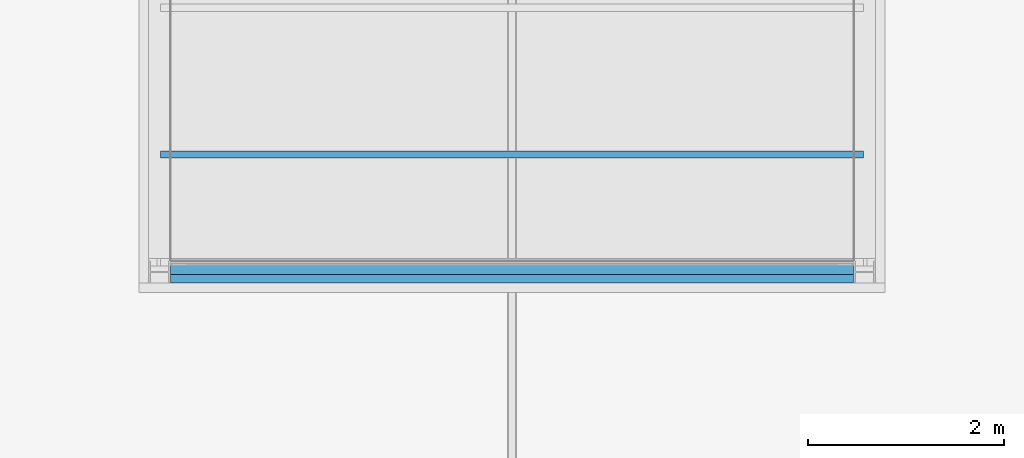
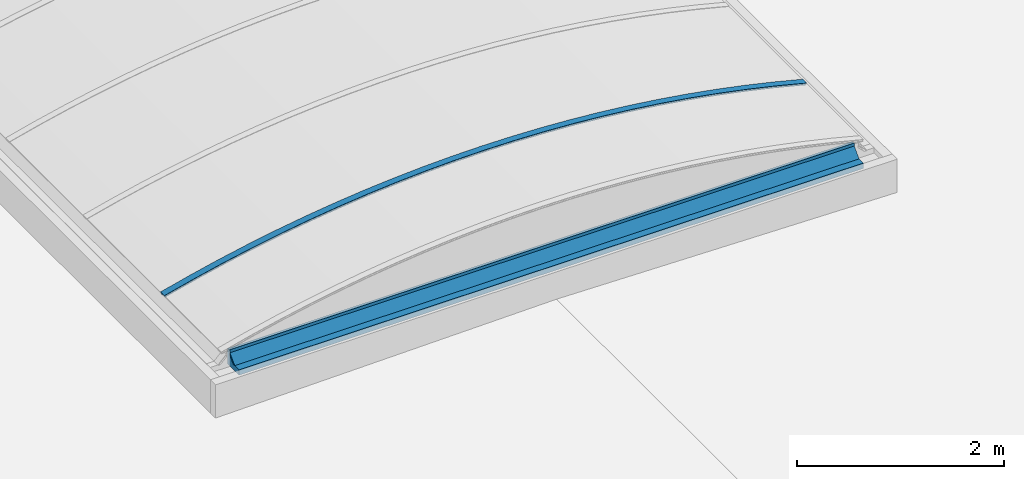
# One storey, part 52 of 81: 2 beams.
"""IFC2X3 building model written with IfcOpenShell, lengths in millimetres."""

from ifc_helpers import new_model, entity, si_unit, converted_unit, derived_unit, money_unit, direction, frame, origin_with_axes, place, context, subcontext, project, spatial, faceted_brep, material, material_list, type_object, element, save


model = new_model("IFC2X3")

# Units and contexts
model_context = context("Model", 3, precision=0.01, world=origin_with_axes(), true_north=direction((0.0, 1.0)))
body_context = subcontext(model_context, "Body", "Model", "MODEL_VIEW")
ifc_project = project(units=[si_unit("LENGTHUNIT", "METRE", prefix="MILLI"), si_unit("AREAUNIT", "SQUARE_METRE"), si_unit("VOLUMEUNIT", "CUBIC_METRE"), converted_unit("PLANEANGLEUNIT", "DEGREE", entity("IfcPlaneAngleMeasure", 0.0174532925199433), si_unit("PLANEANGLEUNIT", "RADIAN"), dimensions=[0, 0, 0, 0, 0, 0, 0]), money_unit("EUR"), converted_unit("TIMEUNIT", "Year", entity("IfcTimeMeasure", 31557600.0), si_unit("TIMEUNIT", "SECOND"), dimensions=[0, 0, 1, 0, 0, 0, 0]), si_unit("MASSUNIT", "GRAM", prefix="KILO"), si_unit("THERMODYNAMICTEMPERATUREUNIT", "DEGREE_CELSIUS"), si_unit("LUMINOUSINTENSITYUNIT", "LUMEN"), si_unit("ENERGYUNIT", "JOULE", prefix="MEGA"), derived_unit("THERMALCONDUCTANCEUNIT", [(si_unit("POWERUNIT", "WATT"), 1), (si_unit("LENGTHUNIT", "METRE"), -1), (si_unit("THERMODYNAMICTEMPERATUREUNIT", "KELVIN"), -1)]), derived_unit("SPECIFICHEATCAPACITYUNIT", [(si_unit("ENERGYUNIT", "JOULE"), 1), (si_unit("MASSUNIT", "GRAM", prefix="KILO"), -1), (si_unit("THERMODYNAMICTEMPERATUREUNIT", "KELVIN"), -1)]), derived_unit("MASSDENSITYUNIT", [(si_unit("MASSUNIT", "GRAM", prefix="KILO"), 1), (si_unit("VOLUMEUNIT", "CUBIC_METRE"), -1)])], contexts=[model_context])

# Site, building, storey
site_placement = place(None, origin_with_axes())
site = spatial("IfcSite", under=ifc_project, at=site_placement, Name="Site", CompositionType="ELEMENT")
building_placement = place(site_placement, origin_with_axes())
building = spatial("IfcBuilding", under=site, at=building_placement, Name="Naam gebouw", CompositionType="ELEMENT")
storey_placement = place(building_placement, frame((0.0, 0.0, 15320.0), z_axis=(0.0, 0.0, 1.0), x_axis=(1.0, 0.0, 0.0)))
storey = spatial("IfcBuildingStorey", under=building, at=storey_placement, Name="01 dak", CompositionType="ELEMENT", Elevation=15320.0)

# Beams
ifc_material_1 = material(Name="Metaal - Aluminium AFW")
ifc_material_list_1 = material_list([ifc_material_1, ifc_material_1])
beam_type_1 = type_object("IfcBeamType", Name="lichtstraat polycarbonaat (constructie) 7420 x 670", PredefinedType="BEAM")
beam_1_placement = place(storey_placement, frame((105300.0, 70362.50000000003, 559.9999999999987), z_axis=(0.0, 0.0, 1.0), x_axis=(1.0, 0.0, 0.0)))
element("IfcBeam", 1, at=beam_1_placement, inside=storey, type_object=beam_type_1, material=ifc_material_list_1, Name="Plafondafwerking 3", ObjectType="BEAM", context=body_context, shape_type="Brep", body=[
    faceted_brep([(-3532.999999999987, 75.00000000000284, 192.1385480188), (-3532.999999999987, 0.0, 192.1385480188), (-3582.999999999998, 0.0, 179.000000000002), (-3582.999999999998, 75.00000000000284, 179.000000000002), (-3527.999999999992, 75.00000000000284, 193.4415530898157), (-3527.999999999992, 0.0, 193.4415530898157), (-2943.44844329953, 0.0, 337.3385317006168), (-3264.746952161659, 0.0, 264.2761146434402), (-3584.237010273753, 0.0, 183.6724462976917), (-3213.32287812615, 0.0, 271.5053933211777), (-2896.922437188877, 0.0, 342.2614189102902), (-2578.96836412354, 0.0, 405.6716830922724), (-2259.631179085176, 0.0, 461.7021786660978), (-1939.082143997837, 0.0, 510.3228562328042), (-1617.493170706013, 0.0, 551.5076403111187), (-1295.036728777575, 0.0, 585.2344433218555), (-971.8857530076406, 0.0, 611.485177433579), (-648.2135506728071, 0.0, 630.2457642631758), (-324.1937085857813, 0.0, 641.5061424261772), (0.0, 0.0, 645.2602729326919), (324.1937085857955, 0.0, 641.5061424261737), (648.2135506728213, 0.0, 630.2457642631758), (971.8857530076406, 0.0, 611.4851774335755), (1295.036728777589, 0.0, 585.2344433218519), (1617.493170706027, 0.0, 551.5076403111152), (1939.082143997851, 0.0, 510.3228562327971), (2259.63117908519, 0.0, 461.7021786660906), (2578.96836412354, 0.0, 405.6716830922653), (2896.922437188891, 0.0, 342.2614189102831), (3213.322878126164, 0.0, 271.5053933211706), (3528.000000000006, 0.0, 193.4415530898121), (3528.000000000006, 0.0, 194.0000000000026), (3533.000000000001, 0.0, 194.0000000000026), (3533.000000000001, 0.0, 192.1385480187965), (3582.999999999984, 0.0, 179.000000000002), (3584.237010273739, 0.0, 183.6724462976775), (3264.746952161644, 0.0, 264.2761146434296), (2943.448443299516, 0.0, 337.3385317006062), (2620.51946150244, 0.0, 402.8192257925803), (2296.138887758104, 0.0, 460.6819250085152), (1970.486407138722, 0.0, 510.8945772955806), (1643.742409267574, 0.0, 553.4293682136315), (1316.087888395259, 0.0, 588.2627363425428), (987.7043431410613, 0.0, 615.3753863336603), (658.7736759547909, 0.0, 634.7522995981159), (329.4780923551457, 0.0, 646.3827426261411), (0.0, 0.0, 650.2602729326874), (-329.4780923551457, 0.0, 646.3827426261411), (-658.7736759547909, 0.0, 634.7522995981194), (-987.7043431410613, 0.0, 615.375386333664), (-1316.087888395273, 0.0, 588.2627363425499), (-1643.742409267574, 0.0, 553.4293682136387), (-1970.486407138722, 0.0, 510.8945772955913), (-2296.138887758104, 0.0, 460.6819250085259), (-2620.519461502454, 0.0, 402.8192257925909), (-3584.237010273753, 75.00000000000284, 183.6724462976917), (-3213.32287812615, 75.00000000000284, 271.5053933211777), (-3264.746952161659, 75.00000000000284, 264.2761146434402), (-2943.44844329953, 75.00000000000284, 337.3385317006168), (-2620.519461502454, 75.00000000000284, 402.8192257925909), (-2296.138887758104, 75.00000000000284, 460.6819250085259), (-1970.486407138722, 75.00000000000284, 510.8945772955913), (-1643.742409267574, 75.00000000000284, 553.4293682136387), (-1316.087888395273, 75.00000000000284, 588.2627363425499), (-987.7043431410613, 75.00000000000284, 615.375386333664), (-658.7736759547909, 75.00000000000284, 634.7522995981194), (-329.4780923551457, 75.00000000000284, 646.3827426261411), (0.0, 75.00000000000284, 650.2602729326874), (329.4780923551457, 75.00000000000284, 646.3827426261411), (658.7736759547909, 75.00000000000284, 634.7522995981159), (987.7043431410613, 75.00000000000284, 615.3753863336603), (1316.087888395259, 75.00000000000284, 588.2627363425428), (1643.742409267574, 75.00000000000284, 553.4293682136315), (1970.486407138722, 75.00000000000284, 510.8945772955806), (2296.138887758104, 75.00000000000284, 460.6819250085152), (2620.51946150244, 75.00000000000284, 402.8192257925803), (2943.448443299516, 75.00000000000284, 337.3385317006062), (3264.746952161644, 75.00000000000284, 264.2761146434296), (3584.237010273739, 75.00000000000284, 183.6724462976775), (3582.999999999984, 75.00000000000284, 179.000000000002), (3533.000000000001, 75.00000000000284, 192.1385480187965), (3533.000000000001, 75.00000000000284, 194.0000000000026), (3528.000000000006, 75.00000000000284, 194.0000000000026), (3528.000000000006, 75.00000000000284, 193.4415530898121), (3213.322878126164, 75.00000000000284, 271.5053933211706), (2896.922437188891, 75.00000000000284, 342.2614189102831), (2578.96836412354, 75.00000000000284, 405.6716830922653), (2259.63117908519, 75.00000000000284, 461.7021786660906), (1939.082143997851, 75.00000000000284, 510.3228562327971), (1617.493170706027, 75.00000000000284, 551.5076403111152), (1295.036728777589, 75.00000000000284, 585.2344433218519), (971.8857530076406, 75.00000000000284, 611.4851774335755), (648.2135506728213, 75.00000000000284, 630.2457642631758), (324.1937085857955, 75.00000000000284, 641.5061424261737), (0.0, 75.00000000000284, 645.2602729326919), (-324.1937085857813, 75.00000000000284, 641.5061424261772), (-648.2135506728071, 75.00000000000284, 630.2457642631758), (-971.8857530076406, 75.00000000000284, 611.485177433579), (-1295.036728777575, 75.00000000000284, 585.2344433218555), (-1617.493170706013, 75.00000000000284, 551.5076403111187), (-1939.082143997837, 75.00000000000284, 510.3228562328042), (-2259.631179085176, 75.00000000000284, 461.7021786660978), (-2578.96836412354, 75.00000000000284, 405.6716830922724), (-2896.922437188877, 75.00000000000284, 342.2614189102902)], [[[0, 1, 2, 3]], [[4, 5, 1, 0]], [[6, 7, 8, 2, 1, 5, 9, 10, 11, 12, 13, 14, 15, 16, 17, 18, 19, 20, 21, 22, 23, 24, 25, 26, 27, 28, 29, 30, 31, 32, 33, 34, 35, 36, 37, 38, 39, 40, 41, 42, 43, 44, 45, 46, 47, 48, 49, 50, 51, 52, 53, 54]], [[3, 2, 8, 55]], [[56, 4, 0, 3, 55, 57, 58, 59, 60, 61, 62, 63, 64, 65, 66, 67, 68, 69, 70, 71, 72, 73, 74, 75, 76, 77, 78, 79, 80, 81, 82, 83, 84, 85, 86, 87, 88, 89, 90, 91, 92, 93, 94, 95, 96, 97, 98, 99, 100, 101, 102, 103]], [[56, 9, 5, 4]], [[57, 7, 6, 58]], [[55, 8, 7, 57]], [[103, 10, 9, 56]], [[102, 11, 10, 103]], [[101, 12, 11, 102]], [[100, 13, 12, 101]], [[99, 14, 13, 100]], [[98, 15, 14, 99]], [[97, 16, 15, 98]], [[96, 17, 16, 97]], [[95, 18, 17, 96]], [[94, 19, 18, 95]], [[93, 20, 19, 94]], [[92, 21, 20, 93]], [[91, 22, 21, 92]], [[90, 23, 22, 91]], [[89, 24, 23, 90]], [[88, 25, 24, 89]], [[87, 26, 25, 88]], [[86, 27, 26, 87]], [[85, 28, 27, 86]], [[84, 29, 28, 85]], [[83, 30, 29, 84]], [[82, 31, 30, 83]], [[81, 32, 31, 82]], [[80, 33, 32, 81]], [[79, 34, 33, 80]], [[78, 35, 34, 79]], [[77, 36, 35, 78]], [[76, 37, 36, 77]], [[75, 38, 37, 76]], [[74, 39, 38, 75]], [[73, 40, 39, 74]], [[72, 41, 40, 73]], [[71, 42, 41, 72]], [[70, 43, 42, 71]], [[69, 44, 43, 70]], [[68, 45, 44, 69]], [[67, 46, 45, 68]], [[66, 47, 46, 67]], [[65, 48, 47, 66]], [[64, 49, 48, 65]], [[63, 50, 49, 64]], [[62, 51, 50, 63]], [[61, 52, 51, 62]], [[60, 53, 52, 61]], [[59, 54, 53, 60]], [[58, 6, 54, 59]]]),
    faceted_brep([(3269.271727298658, 75.00000000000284, 283.190243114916), (2947.542627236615, 75.00000000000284, 356.4574241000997), (2947.542627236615, 0.0, 356.4574241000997), (3269.271727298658, 0.0, 283.190243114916), (3589.184752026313, 75.00000000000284, 202.3611008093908), (3587.947861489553, 75.00000000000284, 197.6891067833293), (3528.000000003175, 75.00000000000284, 213.4415530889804), (3213.322878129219, 75.00000000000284, 291.505393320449), (2896.922437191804, 75.00000000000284, 362.2614189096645), (2578.968364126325, 75.00000000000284, 425.6716830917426), (2259.631179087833, 75.00000000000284, 481.7021786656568), (1939.082144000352, 75.00000000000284, 530.3228562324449), (1617.493170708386, 75.00000000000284, 571.5076403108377), (1295.036728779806, 75.00000000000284, 605.2344433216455), (971.8857530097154, 75.00000000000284, 631.4851774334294), (648.2135506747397, 75.00000000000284, 650.2457642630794), (324.1937085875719, 75.00000000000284, 661.5061424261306), (1.63424829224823e-09, 75.00000000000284, 665.2602729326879), (-324.1937085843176, 75.00000000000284, 661.5061424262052), (-648.2135506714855, 75.00000000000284, 650.2457642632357), (-971.8857530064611, 75.00000000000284, 631.4851774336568), (-1295.036728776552, 75.00000000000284, 605.2344433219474), (-1617.493170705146, 75.00000000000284, 571.5076403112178), (-1939.082143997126, 75.00000000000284, 530.3228562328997), (-2259.631179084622, 75.00000000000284, 481.7021786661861), (-2578.968364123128, 75.00000000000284, 425.6716830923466), (-2896.922437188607, 75.00000000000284, 362.2614189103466), (-3213.322878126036, 75.00000000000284, 291.5053933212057), (-3528.00000000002, 75.00000000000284, 213.4415530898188), (-3533.000000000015, 75.00000000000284, 212.1385480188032), (-3587.947861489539, 75.00000000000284, 197.6891067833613), (-3589.184752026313, 75.00000000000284, 202.3611008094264), (-3269.271727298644, 75.00000000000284, 283.1902431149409), (-2947.542627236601, 75.00000000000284, 356.4574241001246), (-2624.176171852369, 75.00000000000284, 422.1219439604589), (-2299.351990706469, 75.00000000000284, 480.1473261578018), (-1973.250523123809, 75.00000000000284, 530.5013376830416), (-1646.052917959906, 75.00000000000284, 573.156006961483), (-1317.940932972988, 75.00000000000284, 608.0876393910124), (-989.0968338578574, 75.00000000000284, 635.2768305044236), (-659.7032929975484, 75.00000000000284, 654.7084767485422), (-329.9432879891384, 75.00000000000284, 666.3717838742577), (0.0, 75.00000000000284, 670.2602729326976), (329.9432879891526, 75.00000000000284, 666.3717838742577), (659.7032929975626, 75.00000000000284, 654.7084767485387), (989.0968338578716, 75.00000000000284, 635.2768305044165), (1317.940932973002, 75.00000000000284, 608.0876393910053), (1646.052917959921, 75.00000000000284, 573.1560069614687), (1973.250523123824, 75.00000000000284, 530.5013376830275), (2299.351990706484, 75.00000000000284, 480.147326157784), (2624.176171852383, 75.00000000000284, 422.1219439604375), (2624.176171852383, 0.0, 422.1219439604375), (2299.351990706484, 0.0, 480.147326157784), (1973.250523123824, 0.0, 530.5013376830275), (1646.052917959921, 0.0, 573.1560069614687), (1317.940932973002, 0.0, 608.0876393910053), (989.0968338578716, 0.0, 635.2768305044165), (659.7032929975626, 0.0, 654.7084767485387), (329.9432879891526, 0.0, 666.3717838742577), (0.0, 0.0, 670.2602729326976), (-329.9432879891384, 0.0, 666.3717838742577), (-659.7032929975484, 0.0, 654.7084767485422), (-989.0968338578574, 0.0, 635.2768305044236), (-1317.940932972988, 0.0, 608.0876393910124), (-1646.052917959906, 0.0, 573.156006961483), (-1973.250523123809, 0.0, 530.5013376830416), (-2299.351990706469, 0.0, 480.1473261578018), (-2624.176171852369, 0.0, 422.1219439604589), (-2947.542627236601, 0.0, 356.4574241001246), (-3269.271727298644, 0.0, 283.1902431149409), (-3589.184752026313, 0.0, 202.3611008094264), (-3587.947861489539, 0.0, 197.6891067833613), (-3533.000000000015, 0.0, 212.1385480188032), (-3528.00000000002, 0.0, 213.4415530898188), (-3213.322878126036, 0.0, 291.5053933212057), (-2896.922437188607, 0.0, 362.2614189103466), (-2578.968364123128, 0.0, 425.6716830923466), (-2259.631179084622, 0.0, 481.7021786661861), (-1939.082143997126, 0.0, 530.3228562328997), (-1617.493170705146, 0.0, 571.5076403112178), (-1295.036728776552, 0.0, 605.2344433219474), (-971.8857530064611, 0.0, 631.4851774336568), (-648.2135506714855, 0.0, 650.2457642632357), (-324.1937085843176, 0.0, 661.5061424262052), (1.63424829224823e-09, 0.0, 665.2602729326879), (324.1937085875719, 0.0, 661.5061424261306), (648.2135506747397, 0.0, 650.2457642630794), (971.8857530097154, 0.0, 631.4851774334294), (1295.036728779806, 0.0, 605.2344433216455), (1617.493170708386, 0.0, 571.5076403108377), (1939.082144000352, 0.0, 530.3228562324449), (2259.631179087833, 0.0, 481.7021786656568), (2578.968364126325, 0.0, 425.6716830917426), (2896.922437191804, 0.0, 362.2614189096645), (3213.322878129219, 0.0, 291.505393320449), (3528.000000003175, 0.0, 213.4415530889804), (3587.947861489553, 0.0, 197.6891067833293), (3589.184752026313, 0.0, 202.3611008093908)], [[[0, 1, 2, 3]], [[0, 4, 5, 6, 7, 8, 9, 10, 11, 12, 13, 14, 15, 16, 17, 18, 19, 20, 21, 22, 23, 24, 25, 26, 27, 28, 29, 30, 31, 32, 33, 34, 35, 36, 37, 38, 39, 40, 41, 42, 43, 44, 45, 46, 47, 48, 49, 50, 1]], [[1, 50, 51, 2]], [[3, 2, 51, 52, 53, 54, 55, 56, 57, 58, 59, 60, 61, 62, 63, 64, 65, 66, 67, 68, 69, 70, 71, 72, 73, 74, 75, 76, 77, 78, 79, 80, 81, 82, 83, 84, 85, 86, 87, 88, 89, 90, 91, 92, 93, 94, 95, 96, 97]], [[4, 0, 3, 97]], [[5, 4, 97, 96]], [[6, 5, 96, 95]], [[7, 6, 95, 94]], [[8, 7, 94, 93]], [[9, 8, 93, 92]], [[10, 9, 92, 91]], [[11, 10, 91, 90]], [[12, 11, 90, 89]], [[13, 12, 89, 88]], [[14, 13, 88, 87]], [[15, 14, 87, 86]], [[16, 15, 86, 85]], [[17, 16, 85, 84]], [[18, 17, 84, 83]], [[19, 18, 83, 82]], [[20, 19, 82, 81]], [[21, 20, 81, 80]], [[22, 21, 80, 79]], [[23, 22, 79, 78]], [[24, 23, 78, 77]], [[25, 24, 77, 76]], [[26, 25, 76, 75]], [[27, 26, 75, 74]], [[28, 27, 74, 73]], [[29, 28, 73, 72]], [[30, 29, 72, 71]], [[31, 30, 71, 70]], [[32, 31, 70, 69]], [[33, 32, 69, 68]], [[34, 33, 68, 67]], [[35, 34, 67, 66]], [[36, 35, 66, 65]], [[37, 36, 65, 64]], [[38, 37, 64, 63]], [[39, 38, 63, 62]], [[40, 39, 62, 61]], [[41, 40, 61, 60]], [[42, 41, 60, 59]], [[43, 42, 59, 58]], [[44, 43, 58, 57]], [[45, 44, 57, 56]], [[46, 45, 56, 55]], [[47, 46, 55, 54]], [[48, 47, 54, 53]], [[49, 48, 53, 52]], [[50, 49, 52, 51]]]),
])
ifc_material_2 = material(Name="Hout - Dak")
ifc_material_list_2 = material_list([ifc_material_1, ifc_material_1, ifc_material_1, ifc_material_2, ifc_material_2, ifc_material_2])
beam_type_2 = type_object("IfcBeamType", Name="lichtstraat polycarbonaat (constructie-kopzijde) 220 x 193", PredefinedType="BEAM")
beam_2_placement = place(storey_placement, frame((101810.0, 69310.0, 560.0000000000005), z_axis=(0.0, 0.0, 1.0), x_axis=(0.0, -1.0, 0.0)))
element("IfcBeam", 2, at=beam_2_placement, inside=storey, type_object=beam_type_2, material=ifc_material_list_2, Name="Plafondafwerking 3", ObjectType="BEAM", context=body_context, shape_type="Brep", body=[
    faceted_brep([(137.2248164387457, 6979.999999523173, 62.99999939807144), (135.1537490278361, 6979.999999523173, 58.00000032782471), (135.1537490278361, 0.0, 58.00000032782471), (137.2248164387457, 0.0, 62.99999939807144), (219.9999999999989, 6979.999999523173, 62.99999939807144), (219.9999999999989, 6979.999999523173, 58.00000032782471), (219.9999999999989, 0.0, 58.00000032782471), (219.9999999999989, 0.0, 62.99999939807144)], [[[0, 1, 2, 3]], [[0, 4, 5, 1]], [[1, 5, 6, 2]], [[3, 2, 6, 7]], [[4, 0, 3, 7]], [[5, 4, 7, 6]]]),
    faceted_brep([(42.99999999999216, 0.0, 192.1385480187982), (42.99999999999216, 6979.999999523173, 192.1385480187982), (37.9999999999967, 6979.999999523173, 193.4415530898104), (37.9999999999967, 0.0, 193.4415530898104), (42.99999999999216, 0.0, 157.2248175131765), (42.99999999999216, 6979.999999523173, 157.2248175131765), (37.9999999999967, 6979.999999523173, 155.1537497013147), (37.9999996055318, 6979.999999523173, 184.0000003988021), (37.9999996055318, 0.0, 184.0000003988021), (37.9999999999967, 0.0, 155.1537497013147)], [[[0, 1, 2, 3]], [[4, 5, 1, 0]], [[2, 1, 5, 6, 7]], [[3, 2, 7, 8]], [[4, 0, 3, 8, 9]], [[9, 6, 5, 4]], [[8, 7, 6, 9]]]),
    faceted_brep([(37.99999912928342, 0.0, 155.153748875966), (37.99999912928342, 6979.999999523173, 155.153748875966), (135.1537502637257, 6979.999999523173, 58.00000048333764), (135.1537502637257, 0.0, 58.00000048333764), (42.99999997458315, 0.0, 157.2248181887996), (42.99999997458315, 6979.999999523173, 157.2248181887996), (137.2248168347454, 6979.999999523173, 62.99999858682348), (137.2248168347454, 0.0, 62.99999858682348)], [[[0, 1, 2, 3]], [[4, 5, 1, 0]], [[2, 1, 5, 6]], [[3, 2, 6, 7]], [[4, 0, 3, 7]], [[7, 6, 5, 4]]]),
    faceted_brep([(-4.76831019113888e-07, 6979.999999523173, 184.0000003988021), (-4.76831019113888e-07, 6979.999999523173, 0.0), (-4.76831019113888e-07, 0.0, 0.0), (-4.76831019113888e-07, 0.0, 184.0000003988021), (37.9999996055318, 6979.999999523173, 184.0000003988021), (37.9999999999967, 6979.999999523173, 155.1537497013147), (37.9999996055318, 6979.999999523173, 128.0000002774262), (37.9999996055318, 6979.999999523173, 0.0), (37.9999996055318, 0.0, 0.0), (37.9999996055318, 0.0, 128.0000002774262), (37.9999999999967, 0.0, 155.1537497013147), (37.9999996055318, 0.0, 184.0000003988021)], [[[0, 1, 2, 3]], [[0, 4, 5, 6, 7, 1]], [[1, 7, 8, 2]], [[3, 2, 8, 9, 10, 11]], [[4, 0, 3, 11]], [[5, 4, 11, 10]], [[6, 5, 10, 9]], [[7, 6, 9, 8]]]),
    faceted_brep([(37.9999999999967, 6979.999999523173, 58.00000032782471), (37.9999999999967, 6979.999999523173, 0.0), (37.9999999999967, 0.0, 0.0), (37.9999999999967, 0.0, 58.00000032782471), (108.0000002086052, 6979.999999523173, 58.00000032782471), (135.1537490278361, 6979.999999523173, 58.00000032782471), (219.9999999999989, 6979.999999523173, 58.00000032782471), (219.9999999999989, 6979.999999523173, 0.0), (219.9999999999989, 0.0, 0.0), (219.9999999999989, 0.0, 58.00000032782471), (135.1537490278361, 0.0, 58.00000032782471), (108.0000002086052, 0.0, 58.00000032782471)], [[[0, 1, 2, 3]], [[0, 4, 5, 6, 7, 1]], [[1, 7, 8, 2]], [[3, 2, 8, 9, 10, 11]], [[4, 0, 3, 11]], [[5, 4, 11, 10]], [[6, 5, 10, 9]], [[7, 6, 9, 8]]]),
    faceted_brep([(108.0000000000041, 6979.999999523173, 57.99999999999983), (37.9999999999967, 6979.999999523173, 128.000000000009), (37.9999999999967, 0.0, 128.000000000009), (108.0000000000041, 0.0, 57.99999999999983), (37.9999999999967, 6979.999999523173, 57.99999999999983), (37.9999999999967, 0.0, 57.99999999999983)], [[[0, 1, 2, 3]], [[0, 4, 1]], [[1, 4, 5, 2]], [[3, 2, 5]], [[4, 0, 3, 5]]]),
])

save(model, "model.ifc")
